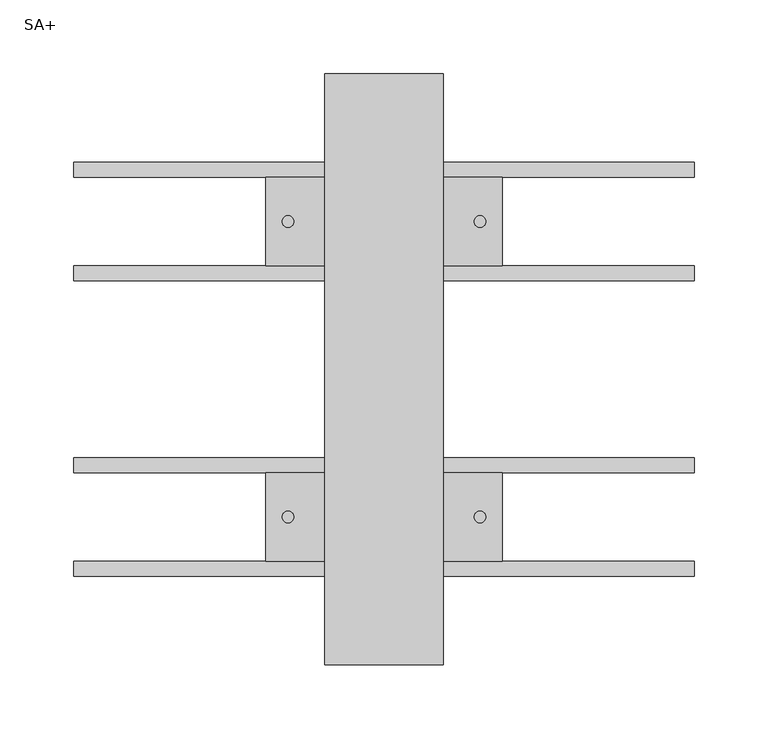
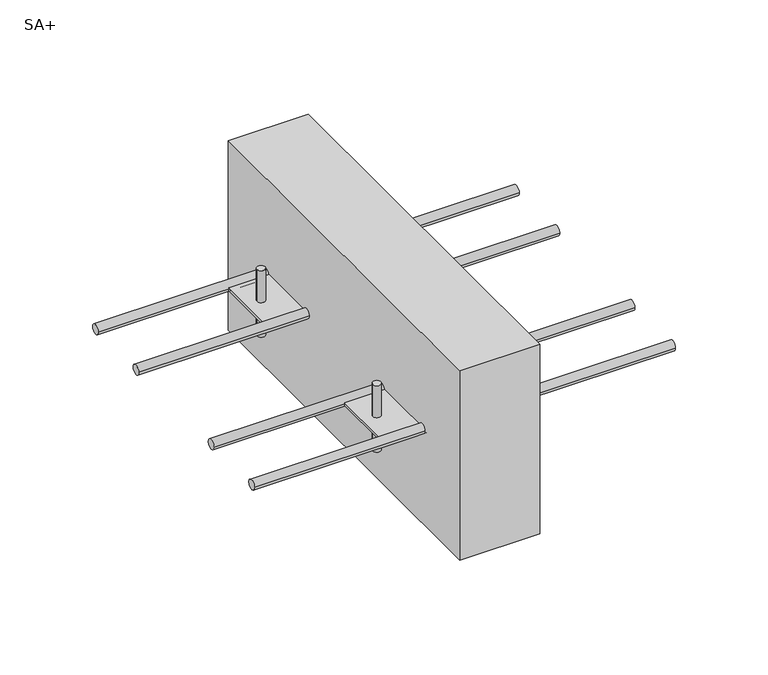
"""IFC4 building model written with IfcOpenShell, lengths in millimetres: proxy geometry, ACINOXplus_Typenreihe_S : SA+."""

from ifc_helpers import new_model, si_unit, point, frame, frame_2d, origin, place, context, project, spatial, polyline, circle_curve, trimmed, segment, composite_curve, outline, extrude, source, transform, mapped, element, save
from ifc_brep_helpers import plane_surface, cylinder_surface, advanced_brep


def sa_3bef0ee7(model_context):
    return source(origin(), model_context, "Body", "SolidModel", [
        extrude(outline(composite_curve([segment(trimmed(circle_curve(frame_2d((-135.0, -100.0)), 5.0), [point((-140.0, -100.0))], [point((-130.0, -100.0))], False, "CARTESIAN"), True, "CONTINUOUS"), segment(trimmed(circle_curve(frame_2d((-135.0, -100.0)), 5.0), [point((-130.0, -100.0))], [point((-140.0, -100.0))], False, "CARTESIAN"), True, "CONTINUOUS")], self_intersect=False)), frame((-210.0, 0.0, 0.0), z_axis=(1.0, 0.0, 0.0), x_axis=(0.0, 1.0, 0.0)), (0.0, 0.0, 1.0), 420.0),
        extrude(outline(composite_curve([segment(trimmed(circle_curve(frame_2d((-65.0, -100.0)), 5.0), [point((-70.0, -100.0))], [point((-60.0, -100.0))], False, "CARTESIAN"), True, "CONTINUOUS"), segment(trimmed(circle_curve(frame_2d((-65.0, -100.0)), 5.0), [point((-60.0, -100.0))], [point((-70.0, -100.0))], False, "CARTESIAN"), True, "CONTINUOUS")], self_intersect=False)), frame((-210.0, 0.0, 0.0), z_axis=(1.0, 0.0, 0.0), x_axis=(0.0, 1.0, 0.0)), (0.0, 0.0, 1.0), 420.0),
        advanced_brep(
        [(-69.0, -100.0, -65.0), (-61.0, -100.0, -65.0), (61.0, -100.0, -65.0), (69.0, -100.0, -65.0), (-69.0, -100.0, -135.0), (-61.0, -100.0, -135.0), (61.0, -100.0, -135.0), (69.0, -100.0, -135.0), (-69.0, -100.0, -98.5), (-61.0, -100.0, -98.5), (-61.0, -100.0, -101.5), (-69.0, -100.0, -101.5), (61.0, -100.0, -98.5), (69.0, -100.0, -98.5), (69.0, -100.0, -101.5), (61.0, -100.0, -101.5), (80.0, -70.0, -98.5), (-80.0, -70.0, -98.5), (-80.0, -130.0, -98.5), (80.0, -130.0, -98.5), (80.0, -70.0, -101.5), (80.0, -130.0, -101.5), (-80.0, -130.0, -101.5), (-80.0, -70.0, -101.5)],
        [
            (0, 1, circle_curve(frame((-65.0, -100.0, -65.0), z_axis=(0.0, 0.0, 1.0), x_axis=(1.0, 0.0, 0.0)), 4.0)),
            (1, 0, circle_curve(frame((-65.0, -100.0, -65.0), z_axis=(0.0, 0.0, 1.0), x_axis=(1.0, 0.0, 0.0)), 4.0)),
            (2, 3, circle_curve(frame((65.0, -100.0, -65.0), z_axis=(0.0, 0.0, 1.0), x_axis=(1.0, 0.0, 0.0)), 4.0)),
            (3, 2, circle_curve(frame((65.0, -100.0, -65.0), z_axis=(0.0, 0.0, 1.0), x_axis=(1.0, 0.0, 0.0)), 4.0)),
            (4, 5, circle_curve(frame((-65.0, -100.0, -135.0), z_axis=(0.0, 0.0, -1.0), x_axis=(1.0, 0.0, 0.0)), 4.0)),
            (5, 4, circle_curve(frame((-65.0, -100.0, -135.0), z_axis=(0.0, 0.0, -1.0), x_axis=(1.0, 0.0, 0.0)), 4.0)),
            (6, 7, circle_curve(frame((65.0, -100.0, -135.0), z_axis=(0.0, 0.0, -1.0), x_axis=(1.0, 0.0, 0.0)), 4.0)),
            (7, 6, circle_curve(frame((65.0, -100.0, -135.0), z_axis=(0.0, 0.0, -1.0), x_axis=(1.0, 0.0, 0.0)), 4.0)),
            (0, 8),
            (8, 9, circle_curve(frame((-65.0, -100.0, -98.5), z_axis=(0.0, 0.0, 1.0), x_axis=(1.0, 0.0, 0.0)), 4.0)),
            (9, 1),
            (5, 10),
            (10, 11, circle_curve(frame((-65.0, -100.0, -101.5), z_axis=(0.0, 0.0, -1.0), x_axis=(1.0, 0.0, 0.0)), 4.0)),
            (11, 4),
            (9, 8, circle_curve(frame((-65.0, -100.0, -98.5), z_axis=(0.0, 0.0, 1.0), x_axis=(1.0, 0.0, 0.0)), 4.0)),
            (11, 10, circle_curve(frame((-65.0, -100.0, -101.5), z_axis=(0.0, 0.0, -1.0), x_axis=(1.0, 0.0, 0.0)), 4.0)),
            (2, 12),
            (12, 13, circle_curve(frame((65.0, -100.0, -98.5), z_axis=(0.0, 0.0, 1.0), x_axis=(1.0, 0.0, 0.0)), 4.0)),
            (13, 3),
            (7, 14),
            (14, 15, circle_curve(frame((65.0, -100.0, -101.5), z_axis=(0.0, 0.0, -1.0), x_axis=(1.0, 0.0, 0.0)), 4.0)),
            (15, 6),
            (13, 12, circle_curve(frame((65.0, -100.0, -98.5), z_axis=(0.0, 0.0, 1.0), x_axis=(1.0, 0.0, 0.0)), 4.0)),
            (15, 14, circle_curve(frame((65.0, -100.0, -101.5), z_axis=(0.0, 0.0, -1.0), x_axis=(1.0, 0.0, 0.0)), 4.0)),
            (16, 17),
            (17, 18),
            (18, 19),
            (19, 16),
            (20, 21),
            (21, 22),
            (22, 23),
            (23, 20),
            (16, 20),
            (23, 17),
            (22, 18),
            (21, 19),
        ],
        [
            plane_surface(frame((-61.0, -100.0, -65.0), z_axis=(0.0, 0.0, 1.0), x_axis=(0.0, 1.0, 0.0))),
            plane_surface(frame((-61.0, -100.0, -135.0), z_axis=(0.0, 0.0, -1.0), x_axis=(0.0, -1.0, 0.0))),
            cylinder_surface(frame((-65.0, -100.0, -135.0), z_axis=(0.0, 0.0, 1.0), x_axis=(1.0, 0.0, 0.0)), 4.0),
            cylinder_surface(frame((65.0, -100.0, -105.0), z_axis=(0.0, 0.0, 1.0), x_axis=(1.0, 0.0, 0.0)), 4.0),
            plane_surface(frame((-80.0, -70.0, -98.5), z_axis=(0.0, 0.0, 1.0), x_axis=(-1.0, 0.0, 0.0))),
            plane_surface(frame((-80.0, -70.0, -101.5), z_axis=(0.0, 0.0, -1.0), x_axis=(1.0, 0.0, 0.0))),
            plane_surface(frame((80.0, -70.0, -98.5), z_axis=(0.0, 1.0, 0.0), x_axis=(0.0, 0.0, -1.0))),
            plane_surface(frame((-80.0, -70.0, -98.5), z_axis=(-1.0, 0.0, 0.0), x_axis=(0.0, 0.0, -1.0))),
            plane_surface(frame((-80.0, -130.0, -98.5), z_axis=(0.0, -1.0, 0.0), x_axis=(0.0, 0.0, -1.0))),
            plane_surface(frame((80.0, -130.0, -98.5), z_axis=(1.0, 0.0, 0.0), x_axis=(0.0, 0.0, -1.0))),
        ],
        [
            (0, [[1, 2]]),
            (0, [[3, 4]]),
            (1, [[5, 6]]),
            (1, [[7, 8]]),
            (2, [[-1, 9, 10, 11]]),
            (2, [[-6, 12, 13, 14]]),
            (2, [[-2, -11, 15, -9]]),
            (2, [[-5, -14, 16, -12]]),
            (3, [[-3, 17, 18, 19]]),
            (3, [[-8, 20, 21, 22]]),
            (3, [[-4, -19, 23, -17]]),
            (3, [[-7, -22, 24, -20]]),
            (4, [[25, 26, 27, 28], [-10, -15], [-18, -23]]),
            (5, [[29, 30, 31, 32], [-13, -16], [-21, -24]]),
            (6, [[-25, 33, -32, 34]]),
            (7, [[-26, -34, -31, 35]]),
            (8, [[-27, -35, -30, 36]]),
            (9, [[-28, -36, -29, -33]]),
        ],
    ),
        extrude(outline(composite_curve([segment(trimmed(circle_curve(frame_2d((65.0, -100.0)), 5.0), [point((60.0, -100.0))], [point((70.0, -100.0))], False, "CARTESIAN"), True, "CONTINUOUS"), segment(trimmed(circle_curve(frame_2d((65.0, -100.0)), 5.0), [point((70.0, -100.0))], [point((60.0, -100.0))], False, "CARTESIAN"), True, "CONTINUOUS")], self_intersect=False)), frame((-210.0, 0.0, 0.0), z_axis=(1.0, 0.0, 0.0), x_axis=(0.0, 1.0, 0.0)), (0.0, 0.0, 1.0), 420.0),
        extrude(outline(composite_curve([segment(trimmed(circle_curve(frame_2d((135.0, -100.0)), 5.0), [point((130.0, -100.0))], [point((140.0, -100.0))], False, "CARTESIAN"), True, "CONTINUOUS"), segment(trimmed(circle_curve(frame_2d((135.0, -100.0)), 5.0), [point((140.0, -100.0))], [point((130.0, -100.0))], False, "CARTESIAN"), True, "CONTINUOUS")], self_intersect=False)), frame((-210.0, 0.0, 0.0), z_axis=(1.0, 0.0, 0.0), x_axis=(0.0, 1.0, 0.0)), (0.0, 0.0, 1.0), 420.0),
        advanced_brep(
        [(-69.0, 100.0, -65.0), (-61.0, 100.0, -65.0), (61.0, 100.0, -65.0), (69.0, 100.0, -65.0), (-69.0, 100.0, -135.0), (-61.0, 100.0, -135.0), (61.0, 100.0, -135.0), (69.0, 100.0, -135.0), (-69.0, 100.0, -98.5), (-61.0, 100.0, -98.5), (-61.0, 100.0, -101.5), (-69.0, 100.0, -101.5), (61.0, 100.0, -98.5), (69.0, 100.0, -98.5), (69.0, 100.0, -101.5), (61.0, 100.0, -101.5), (80.0, 130.0, -98.5), (-80.0, 130.0, -98.5), (-80.0, 70.0, -98.5), (80.0, 70.0, -98.5), (80.0, 130.0, -101.5), (80.0, 70.0, -101.5), (-80.0, 70.0, -101.5), (-80.0, 130.0, -101.5)],
        [
            (0, 1, circle_curve(frame((-65.0, 100.0, -65.0), z_axis=(0.0, 0.0, 1.0), x_axis=(1.0, 0.0, 0.0)), 4.0)),
            (1, 0, circle_curve(frame((-65.0, 100.0, -65.0), z_axis=(0.0, 0.0, 1.0), x_axis=(1.0, 0.0, 0.0)), 4.0)),
            (2, 3, circle_curve(frame((65.0, 100.0, -65.0), z_axis=(0.0, 0.0, 1.0), x_axis=(1.0, 0.0, 0.0)), 4.0)),
            (3, 2, circle_curve(frame((65.0, 100.0, -65.0), z_axis=(0.0, 0.0, 1.0), x_axis=(1.0, 0.0, 0.0)), 4.0)),
            (4, 5, circle_curve(frame((-65.0, 100.0, -135.0), z_axis=(0.0, 0.0, -1.0), x_axis=(1.0, 0.0, 0.0)), 4.0)),
            (5, 4, circle_curve(frame((-65.0, 100.0, -135.0), z_axis=(0.0, 0.0, -1.0), x_axis=(1.0, 0.0, 0.0)), 4.0)),
            (6, 7, circle_curve(frame((65.0, 100.0, -135.0), z_axis=(0.0, 0.0, -1.0), x_axis=(1.0, 0.0, 0.0)), 4.0)),
            (7, 6, circle_curve(frame((65.0, 100.0, -135.0), z_axis=(0.0, 0.0, -1.0), x_axis=(1.0, 0.0, 0.0)), 4.0)),
            (0, 8),
            (8, 9, circle_curve(frame((-65.0, 100.0, -98.5), z_axis=(0.0, 0.0, 1.0), x_axis=(1.0, 0.0, 0.0)), 4.0)),
            (9, 1),
            (5, 10),
            (10, 11, circle_curve(frame((-65.0, 100.0, -101.5), z_axis=(0.0, 0.0, -1.0), x_axis=(1.0, 0.0, 0.0)), 4.0)),
            (11, 4),
            (9, 8, circle_curve(frame((-65.0, 100.0, -98.5), z_axis=(0.0, 0.0, 1.0), x_axis=(1.0, 0.0, 0.0)), 4.0)),
            (11, 10, circle_curve(frame((-65.0, 100.0, -101.5), z_axis=(0.0, 0.0, -1.0), x_axis=(1.0, 0.0, 0.0)), 4.0)),
            (2, 12),
            (12, 13, circle_curve(frame((65.0, 100.0, -98.5), z_axis=(0.0, 0.0, 1.0), x_axis=(1.0, 0.0, 0.0)), 4.0)),
            (13, 3),
            (7, 14),
            (14, 15, circle_curve(frame((65.0, 100.0, -101.5), z_axis=(0.0, 0.0, -1.0), x_axis=(1.0, 0.0, 0.0)), 4.0)),
            (15, 6),
            (13, 12, circle_curve(frame((65.0, 100.0, -98.5), z_axis=(0.0, 0.0, 1.0), x_axis=(1.0, 0.0, 0.0)), 4.0)),
            (15, 14, circle_curve(frame((65.0, 100.0, -101.5), z_axis=(0.0, 0.0, -1.0), x_axis=(1.0, 0.0, 0.0)), 4.0)),
            (16, 17),
            (17, 18),
            (18, 19),
            (19, 16),
            (20, 21),
            (21, 22),
            (22, 23),
            (23, 20),
            (16, 20),
            (23, 17),
            (22, 18),
            (21, 19),
        ],
        [
            plane_surface(frame((-61.0, 100.0, -65.0), z_axis=(0.0, 0.0, 1.0), x_axis=(0.0, 1.0, 0.0))),
            plane_surface(frame((-61.0, 100.0, -135.0), z_axis=(0.0, 0.0, -1.0), x_axis=(0.0, -1.0, 0.0))),
            cylinder_surface(frame((-65.0, 100.0, -135.0), z_axis=(0.0, 0.0, 1.0), x_axis=(1.0, 0.0, 0.0)), 4.0),
            cylinder_surface(frame((65.0, 100.0, -105.0), z_axis=(0.0, 0.0, 1.0), x_axis=(1.0, 0.0, 0.0)), 4.0),
            plane_surface(frame((-80.0, 130.0, -98.5), z_axis=(0.0, 0.0, 1.0), x_axis=(-1.0, 0.0, 0.0))),
            plane_surface(frame((-80.0, 130.0, -101.5), z_axis=(0.0, 0.0, -1.0), x_axis=(1.0, 0.0, 0.0))),
            plane_surface(frame((80.0, 130.0, -98.5), z_axis=(0.0, 1.0, 0.0), x_axis=(0.0, 0.0, -1.0))),
            plane_surface(frame((-80.0, 130.0, -98.5), z_axis=(-1.0, 0.0, 0.0), x_axis=(0.0, 0.0, -1.0))),
            plane_surface(frame((-80.0, 70.0, -98.5), z_axis=(0.0, -1.0, 0.0), x_axis=(0.0, 0.0, -1.0))),
            plane_surface(frame((80.0, 70.0, -98.5), z_axis=(1.0, 0.0, 0.0), x_axis=(0.0, 0.0, -1.0))),
        ],
        [
            (0, [[1, 2]]),
            (0, [[3, 4]]),
            (1, [[5, 6]]),
            (1, [[7, 8]]),
            (2, [[-1, 9, 10, 11]]),
            (2, [[-6, 12, 13, 14]]),
            (2, [[-2, -11, 15, -9]]),
            (2, [[-5, -14, 16, -12]]),
            (3, [[-3, 17, 18, 19]]),
            (3, [[-8, 20, 21, 22]]),
            (3, [[-4, -19, 23, -17]]),
            (3, [[-7, -22, 24, -20]]),
            (4, [[25, 26, 27, 28], [-10, -15], [-18, -23]]),
            (5, [[29, 30, 31, 32], [-13, -16], [-21, -24]]),
            (6, [[-25, 33, -32, 34]]),
            (7, [[-26, -34, -31, 35]]),
            (8, [[-27, -35, -30, 36]]),
            (9, [[-28, -36, -29, -33]]),
        ],
    ),
        extrude(outline(polyline([(40.0, 200.0), (40.0, -200.0), (-40.0, -200.0), (-40.0, 200.0), (40.0, 200.0)])), frame((0.0, 0.0, -200.0), z_axis=(0.0, 0.0, 1.0), x_axis=(1.0, 0.0, 0.0)), (0.0, 0.0, 1.0), 200.0),
    ])


if __name__ == "__main__":
    model = new_model("IFC4")
    model_context = context("Model", 3, world=origin())
    ifc_project = project(units=[si_unit("LENGTHUNIT", "METRE", prefix="MILLI")], contexts=[model_context])
    site = spatial("IfcSite", under=ifc_project)
    building = spatial("IfcBuilding", under=site)
    placement = place(None, origin())
    sa_shape = sa_3bef0ee7(model_context)
    element("IfcBuildingElementProxy", 1, Name="ACINOXplus_Typenreihe_S : SA+", ObjectType="ACINOXplus_Typenreihe_S : SA+", at=placement, inside=building, context=model_context, shape_type="MappedRepresentation", body=[
        mapped(sa_shape, transform((0.0, 0.0, 0.0), x_axis=(1.0, 0.0, 0.0), y_axis=(0.0, 1.0, 0.0), z_axis=(0.0, 0.0, 1.0))),
    ])
    save(model, "model.ifc")
